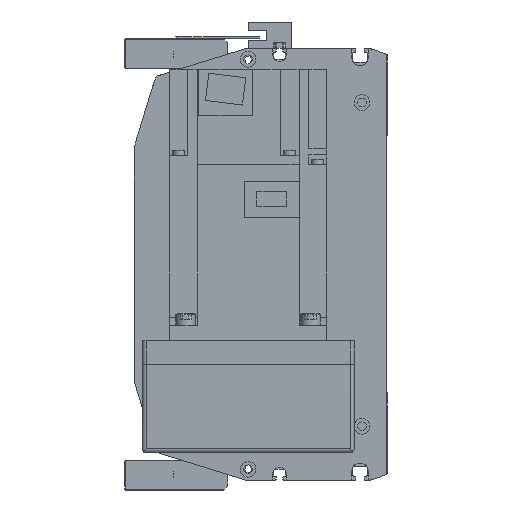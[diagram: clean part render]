
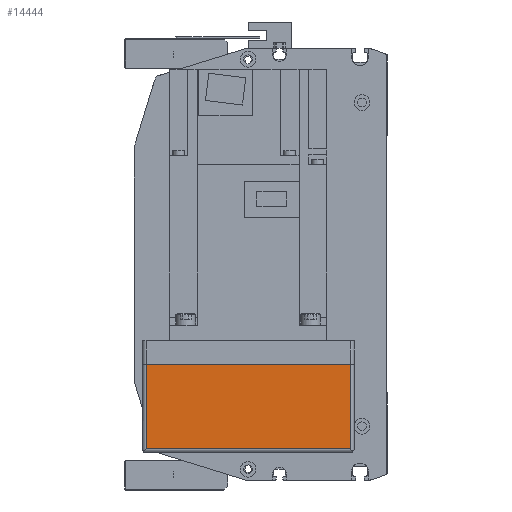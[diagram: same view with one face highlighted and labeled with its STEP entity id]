
A CAD part, left-side view. The second image highlights one B-rep face of the part: STEP entity #14444.
In plain terms, the highlighted planar face has unit normal (-1, 0, 0).
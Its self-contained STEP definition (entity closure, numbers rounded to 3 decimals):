
#2456=ORIENTED_EDGE('',*,*,#5888,.T.);
#2457=ORIENTED_EDGE('',*,*,#5816,.T.);
#2458=ORIENTED_EDGE('',*,*,#5889,.F.);
#2459=ORIENTED_EDGE('',*,*,#5828,.F.);
#5816=EDGE_CURVE('',#7678,#7681,#9176,.T.);
#5828=EDGE_CURVE('',#7688,#7690,#9181,.T.);
#5888=EDGE_CURVE('',#7688,#7678,#9223,.T.);
#5889=EDGE_CURVE('',#7690,#7681,#9224,.T.);
#7678=VERTEX_POINT('',#22447);
#7681=VERTEX_POINT('',#22453);
#7688=VERTEX_POINT('',#22476);
#7690=VERTEX_POINT('',#22479);
#9176=LINE('',#22454,#10521);
#9181=LINE('',#22478,#10526);
#9223=LINE('',#22602,#10568);
#9224=LINE('',#22603,#10569);
#10521=VECTOR('',#17935,1000.);
#10526=VECTOR('',#17962,1000.);
#10568=VECTOR('',#18082,1000.);
#10569=VECTOR('',#18083,1000.);
#11723=EDGE_LOOP('',(#2456,#2457,#2458,#2459));
#12852=FACE_BOUND('',#11723,.T.);
#13819=PLANE('',#15509);
#14444=ADVANCED_FACE('',(#12852),#13819,.T.);
#15509=AXIS2_PLACEMENT_3D('',#22601,#18080,#18081);
#17935=DIRECTION('',(0.,0.,1.));
#17962=DIRECTION('',(0.,0.,1.));
#18080=DIRECTION('',(-1.,0.,0.));
#18081=DIRECTION('',(0.,0.,1.));
#18082=DIRECTION('',(0.,-1.,0.));
#18083=DIRECTION('',(0.,-1.,0.));
#22447=CARTESIAN_POINT('',(-230.,-52.,-55.));
#22453=CARTESIAN_POINT('',(-230.,-52.,-12.));
#22454=CARTESIAN_POINT('',(-230.,-52.,-57.));
#22476=CARTESIAN_POINT('',(-230.,52.,-55.));
#22478=CARTESIAN_POINT('',(-230.,52.,-57.));
#22479=CARTESIAN_POINT('',(-230.,52.,-12.));
#22601=CARTESIAN_POINT('',(-230.,52.,-57.));
#22602=CARTESIAN_POINT('',(-230.,54.,-55.));
#22603=CARTESIAN_POINT('',(-230.,52.,-12.));
